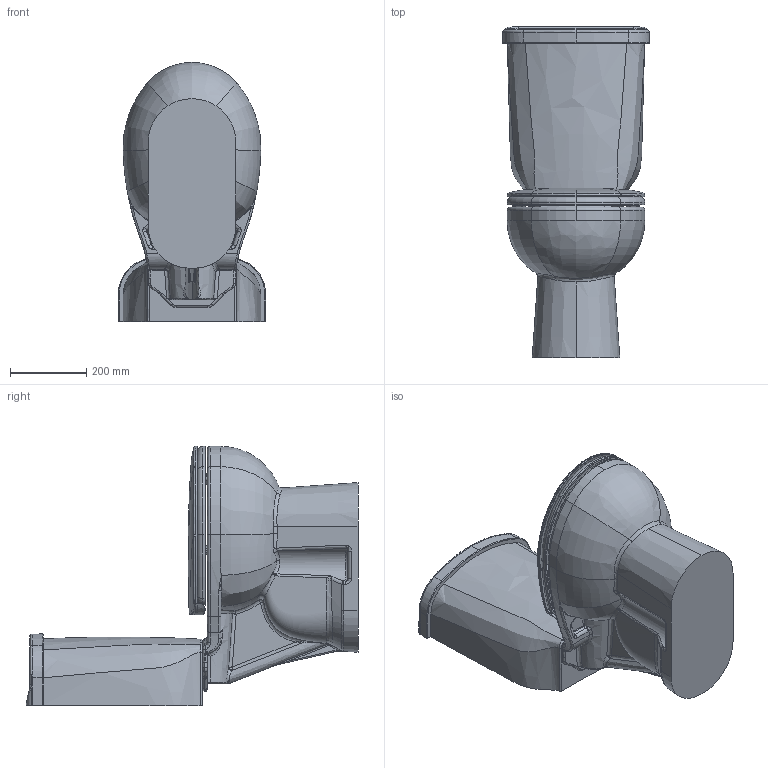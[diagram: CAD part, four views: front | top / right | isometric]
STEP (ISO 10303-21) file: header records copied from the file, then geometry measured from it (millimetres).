
FILE_DESCRIPTION (( 'STEP AP203' ), '1' );
FILE_NAME ('sd300+410+KC4020.STEP', '2018-04-09T11:59:00', ( '' ), ( '' ), 'SwSTEP 2.0', 'SolidWorks 2018', '' );
FILE_SCHEMA (( 'CONFIG_CONTROL_DESIGN' ));
Products named in the file (1): sd300+410+KC4020
Bounding box: 385.93 x 871 x 679.88 mm (x, y, z)
Volume: 43018579.2 mm3; surface area: 2447361.1 mm2
Topology: 5 solids, 6 shells, 716 faces, 1752 edges, 1024 vertices
Faces by surface type: bspline 298, cylinder 164, torus 112, plane 100, cone 22, sphere 20
Entity records: 81501 total; most frequent: CARTESIAN_POINT 66870, ORIENTED_EDGE 3440, DIRECTION 2574, EDGE_CURVE 1720, AXIS2_PLACEMENT_3D 1112, VERTEX_POINT 1024, EDGE_LOOP 726, ADVANCED_FACE 716
